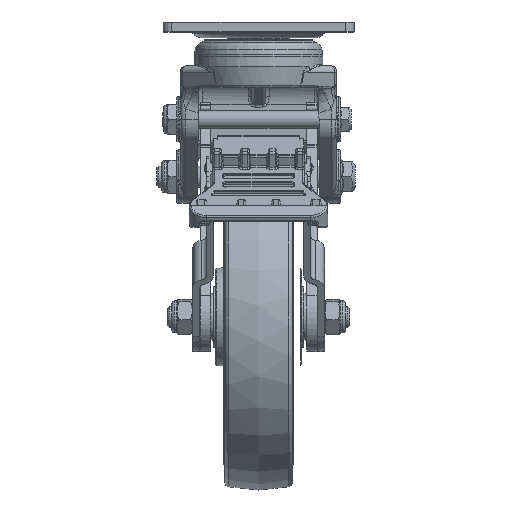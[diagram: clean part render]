
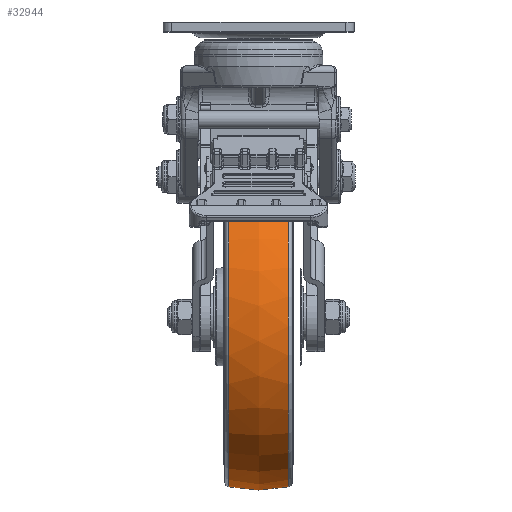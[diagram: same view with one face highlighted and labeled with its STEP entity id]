
A CAD part, front view. The second image highlights one B-rep face of the part: STEP entity #32944.
In plain terms, the highlighted free-form (B-spline) face has degree [2, 2] with [3, 9] control points.
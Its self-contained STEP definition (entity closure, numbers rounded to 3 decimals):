
#722=(
BOUNDED_SURFACE()
B_SPLINE_SURFACE(2,2,((#66953,#66954,#66955,#66956,#66957,#66958,#66959,
#66960,#66961),(#66962,#66963,#66964,#66965,#66966,#66967,#66968,#66969,
#66970),(#66971,#66972,#66973,#66974,#66975,#66976,#66977,#66978,#66979)),
 .UNSPECIFIED.,.F.,.T.,.F.)
B_SPLINE_SURFACE_WITH_KNOTS((3,3),(3,2,2,2,3),(-0.216,0.216),
(-3.142,-1.571,0.,1.571,3.142),
 .UNSPECIFIED.)
GEOMETRIC_REPRESENTATION_ITEM()
RATIONAL_B_SPLINE_SURFACE(((1.,0.707,1.,0.707,1.,
0.707,1.,0.707,1.),(0.977,0.691,
0.977,0.691,0.977,0.691,0.977,
0.691,0.977),(1.,0.707,1.,0.707,
1.,0.707,1.,0.707,1.)))
REPRESENTATION_ITEM('')
SURFACE()
);
#5841=FACE_OUTER_BOUND('',#7809,.T.);
#7809=EDGE_LOOP('',(#27722,#27723,#27724,#27725,#27726,#27727));
#13525=CIRCLE('',#36183,98.142);
#13526=CIRCLE('',#36184,98.142);
#13527=CIRCLE('',#36185,80.);
#13528=CIRCLE('',#36186,98.142);
#13529=CIRCLE('',#36187,98.142);
#15819=VERTEX_POINT('',#66948);
#15820=VERTEX_POINT('',#66950);
#15821=VERTEX_POINT('',#66980);
#15822=VERTEX_POINT('',#66982);
#19966=EDGE_CURVE('',#15819,#15820,#13525,.T.);
#19967=EDGE_CURVE('',#15820,#15819,#13526,.T.);
#19968=EDGE_CURVE('',#15819,#15821,#13527,.T.);
#19969=EDGE_CURVE('',#15821,#15822,#13528,.T.);
#19970=EDGE_CURVE('',#15822,#15821,#13529,.T.);
#27722=ORIENTED_EDGE('',*,*,#19967,.F.);
#27723=ORIENTED_EDGE('',*,*,#19966,.F.);
#27724=ORIENTED_EDGE('',*,*,#19968,.T.);
#27725=ORIENTED_EDGE('',*,*,#19969,.T.);
#27726=ORIENTED_EDGE('',*,*,#19970,.T.);
#27727=ORIENTED_EDGE('',*,*,#19968,.F.);
#32944=ADVANCED_FACE('',(#5841),#722,.F.);
#36183=AXIS2_PLACEMENT_3D('',#66951,#43224,#43225);
#36184=AXIS2_PLACEMENT_3D('',#66952,#43226,#43227);
#36185=AXIS2_PLACEMENT_3D('',#66981,#43228,#43229);
#36186=AXIS2_PLACEMENT_3D('',#66983,#43230,#43231);
#36187=AXIS2_PLACEMENT_3D('',#66984,#43232,#43233);
#43224=DIRECTION('center_axis',(-1.,0.,0.));
#43225=DIRECTION('ref_axis',(0.,-0.8,0.6));
#43226=DIRECTION('center_axis',(-1.,0.,0.));
#43227=DIRECTION('ref_axis',(0.,-0.8,0.6));
#43228=DIRECTION('center_axis',(0.,-0.6,
-0.8));
#43229=DIRECTION('ref_axis',(0.,0.8,-0.6));
#43230=DIRECTION('center_axis',(-1.,0.,0.));
#43231=DIRECTION('ref_axis',(0.,-0.8,0.6));
#43232=DIRECTION('center_axis',(-1.,0.,0.));
#43233=DIRECTION('ref_axis',(0.,-0.8,0.6));
#66948=CARTESIAN_POINT('',(-17.143,23.519,-228.88));
#66950=CARTESIAN_POINT('',(-17.143,-133.516,-111.12));
#66951=CARTESIAN_POINT('Origin',(-17.143,-54.999,-170.));
#66952=CARTESIAN_POINT('Origin',(-17.143,-54.999,-170.));
#66953=CARTESIAN_POINT('Ctrl Pts',(17.143,23.519,-228.88));
#66954=CARTESIAN_POINT('Ctrl Pts',(17.143,-35.361,-307.397));
#66955=CARTESIAN_POINT('Ctrl Pts',(17.143,-113.878,-248.517));
#66956=CARTESIAN_POINT('Ctrl Pts',(17.143,-192.396,-189.638));
#66957=CARTESIAN_POINT('Ctrl Pts',(17.143,-133.516,-111.12));
#66958=CARTESIAN_POINT('Ctrl Pts',(17.143,-74.636,-32.603));
#66959=CARTESIAN_POINT('Ctrl Pts',(17.143,3.881,-91.483));
#66960=CARTESIAN_POINT('Ctrl Pts',(17.143,82.398,-150.362));
#66961=CARTESIAN_POINT('Ctrl Pts',(17.143,23.519,-228.88));
#66962=CARTESIAN_POINT('Ctrl Pts',(0.,26.528,
-231.136));
#66963=CARTESIAN_POINT('Ctrl Pts',(0.,-34.608,
-312.662));
#66964=CARTESIAN_POINT('Ctrl Pts',(0.,-116.134,
-251.526));
#66965=CARTESIAN_POINT('Ctrl Pts',(0.,-197.661,
-190.39));
#66966=CARTESIAN_POINT('Ctrl Pts',(0.,-136.525,
-108.864));
#66967=CARTESIAN_POINT('Ctrl Pts',(0.,-75.389,
-27.338));
#66968=CARTESIAN_POINT('Ctrl Pts',(0.,6.137,
-88.474));
#66969=CARTESIAN_POINT('Ctrl Pts',(0.,87.664,
-149.61));
#66970=CARTESIAN_POINT('Ctrl Pts',(0.,26.528,
-231.136));
#66971=CARTESIAN_POINT('Ctrl Pts',(-17.143,23.519,-228.88));
#66972=CARTESIAN_POINT('Ctrl Pts',(-17.143,-35.361,
-307.397));
#66973=CARTESIAN_POINT('Ctrl Pts',(-17.143,-113.878,
-248.517));
#66974=CARTESIAN_POINT('Ctrl Pts',(-17.143,-192.396,
-189.638));
#66975=CARTESIAN_POINT('Ctrl Pts',(-17.143,-133.516,
-111.12));
#66976=CARTESIAN_POINT('Ctrl Pts',(-17.143,-74.636,
-32.603));
#66977=CARTESIAN_POINT('Ctrl Pts',(-17.143,3.881,-91.483));
#66978=CARTESIAN_POINT('Ctrl Pts',(-17.143,82.398,-150.362));
#66979=CARTESIAN_POINT('Ctrl Pts',(-17.143,23.519,-228.88));
#66980=CARTESIAN_POINT('',(17.143,23.519,-228.88));
#66981=CARTESIAN_POINT('Origin',(0.,-38.998,
-181.999));
#66982=CARTESIAN_POINT('',(17.143,-133.516,-111.12));
#66983=CARTESIAN_POINT('Origin',(17.143,-54.999,-170.));
#66984=CARTESIAN_POINT('Origin',(17.143,-54.999,-170.));
